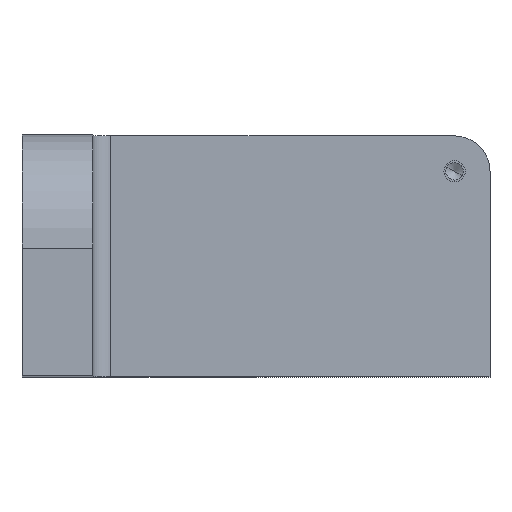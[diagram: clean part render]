
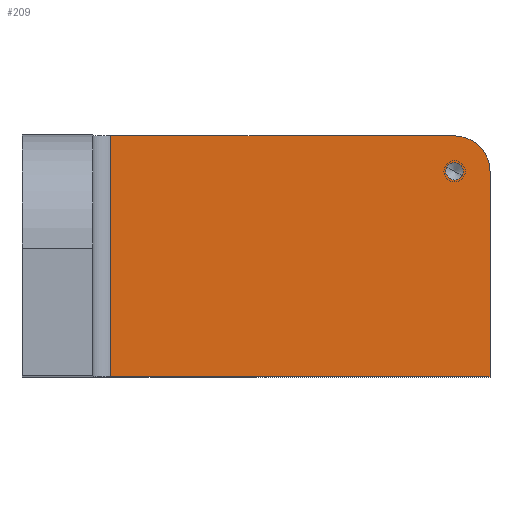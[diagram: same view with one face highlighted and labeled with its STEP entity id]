
A CAD part, top view. The second image highlights one B-rep face of the part: STEP entity #209.
In plain terms, the highlighted planar face has unit normal (0, 0, 1).
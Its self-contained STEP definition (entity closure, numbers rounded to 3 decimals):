
#144=CARTESIAN_POINT('Axis2P3D Location',(0.,0.,20.)) ;
#149=CARTESIAN_POINT('Line Origine',(78.5,0.,20.)) ;
#153=CARTESIAN_POINT('Vertex',(25.,0.,20.)) ;
#155=CARTESIAN_POINT('Vertex',(132.,0.,20.)) ;
#158=CARTESIAN_POINT('Line Origine',(132.,29.,20.)) ;
#162=CARTESIAN_POINT('Vertex',(132.,58.,20.)) ;
#165=CARTESIAN_POINT('Axis2P3D Location',(122.,58.,20.)) ;
#169=CARTESIAN_POINT('Vertex',(122.,68.,20.)) ;
#172=CARTESIAN_POINT('Line Origine',(73.5,68.,20.)) ;
#176=CARTESIAN_POINT('Vertex',(25.,68.,20.)) ;
#179=CARTESIAN_POINT('Line Origine',(25.,34.,20.)) ;
#191=CARTESIAN_POINT('Axis2P3D Location',(122.,58.,20.)) ;
#195=CARTESIAN_POINT('Vertex',(119.842,59.179,20.)) ;
#197=CARTESIAN_POINT('Vertex',(124.158,56.821,20.)) ;
#200=CARTESIAN_POINT('Axis2P3D Location',(122.,58.,20.)) ;
#145=DIRECTION('Axis2P3D Direction',(0.,0.,1.)) ;
#146=DIRECTION('Axis2P3D XDirection',(1.,0.,0.)) ;
#150=DIRECTION('Vector Direction',(1.,0.,0.)) ;
#159=DIRECTION('Vector Direction',(0.,1.,0.)) ;
#166=DIRECTION('Axis2P3D Direction',(0.,0.,1.)) ;
#173=DIRECTION('Vector Direction',(-1.,0.,0.)) ;
#180=DIRECTION('Vector Direction',(0.,-1.,0.)) ;
#192=DIRECTION('Axis2P3D Direction',(0.,0.,1.)) ;
#201=DIRECTION('Axis2P3D Direction',(0.,0.,1.)) ;
#147=AXIS2_PLACEMENT_3D('Plane Axis2P3D',#144,#145,#146) ;
#167=AXIS2_PLACEMENT_3D('Circle Axis2P3D',#165,#166,$) ;
#193=AXIS2_PLACEMENT_3D('Circle Axis2P3D',#191,#192,$) ;
#202=AXIS2_PLACEMENT_3D('Circle Axis2P3D',#200,#201,$) ;
#185=ORIENTED_EDGE('',*,*,#157,.T.) ;
#186=ORIENTED_EDGE('',*,*,#164,.T.) ;
#187=ORIENTED_EDGE('',*,*,#171,.T.) ;
#188=ORIENTED_EDGE('',*,*,#178,.T.) ;
#189=ORIENTED_EDGE('',*,*,#183,.F.) ;
#206=ORIENTED_EDGE('',*,*,#199,.F.) ;
#207=ORIENTED_EDGE('',*,*,#204,.F.) ;
#208=FACE_BOUND('',#205,.T.) ;
#151=VECTOR('Line Direction',#150,1.) ;
#160=VECTOR('Line Direction',#159,1.) ;
#174=VECTOR('Line Direction',#173,1.) ;
#181=VECTOR('Line Direction',#180,1.) ;
#209=ADVANCED_FACE('PartBody',(#190,#208),#148,.T.) ;
#168=CIRCLE('generated circle',#167,10.) ;
#194=CIRCLE('generated circle',#193,2.459) ;
#203=CIRCLE('generated circle',#202,2.459) ;
#157=EDGE_CURVE('',#154,#156,#152,.T.) ;
#164=EDGE_CURVE('',#156,#163,#161,.T.) ;
#171=EDGE_CURVE('',#163,#170,#168,.T.) ;
#178=EDGE_CURVE('',#170,#177,#175,.T.) ;
#183=EDGE_CURVE('',#154,#177,#182,.F.) ;
#199=EDGE_CURVE('',#196,#198,#194,.T.) ;
#204=EDGE_CURVE('',#198,#196,#203,.T.) ;
#184=EDGE_LOOP('',(#185,#186,#187,#188,#189)) ;
#205=EDGE_LOOP('',(#206,#207)) ;
#190=FACE_OUTER_BOUND('',#184,.T.) ;
#152=LINE('Line',#149,#151) ;
#161=LINE('Line',#158,#160) ;
#175=LINE('Line',#172,#174) ;
#182=LINE('Line',#179,#181) ;
#148=PLANE('',#147) ;
#154=VERTEX_POINT('',#153) ;
#156=VERTEX_POINT('',#155) ;
#163=VERTEX_POINT('',#162) ;
#170=VERTEX_POINT('',#169) ;
#177=VERTEX_POINT('',#176) ;
#196=VERTEX_POINT('',#195) ;
#198=VERTEX_POINT('',#197) ;
